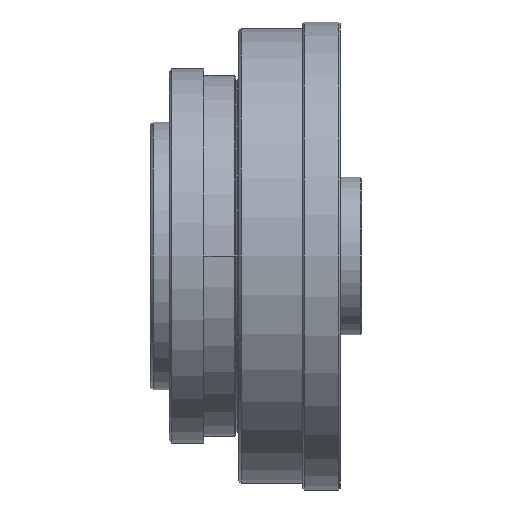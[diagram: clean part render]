
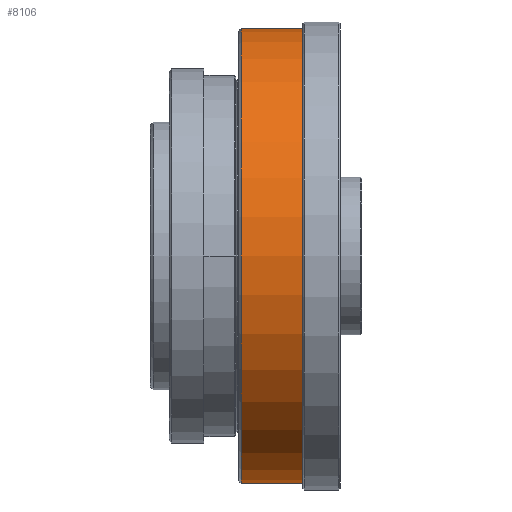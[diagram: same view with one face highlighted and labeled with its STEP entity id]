
A CAD part, left-side view. The second image highlights one B-rep face of the part: STEP entity #8106.
In plain terms, the highlighted cylindrical face has radius 85 mm (diameter 170 mm), a partial arc.
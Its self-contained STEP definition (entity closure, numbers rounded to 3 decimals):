
#1135=CARTESIAN_POINT('',(0.,-42.5,0.));
#1136=DIRECTION('',(0.,-1.,0.));
#1137=DIRECTION('',(0.,0.,1.));
#1138=AXIS2_PLACEMENT_3D('',#1135,#1136,#1137);
#1148=DIRECTION('',(0.,1.,0.));
#1149=VECTOR('',#1148,23.576);
#1150=CARTESIAN_POINT('',(0.,-42.5,-85.));
#1151=LINE('',#1150,#1149);
#1152=DIRECTION('',(0.,-1.,0.));
#1153=VECTOR('',#1152,23.576);
#1154=CARTESIAN_POINT('',(0.,-18.924,85.));
#1155=LINE('',#1154,#1153);
#1156=CARTESIAN_POINT('',(0.,-18.924,0.));
#1157=DIRECTION('',(0.,-1.,0.));
#1158=DIRECTION('',(0.,0.,1.));
#1159=AXIS2_PLACEMENT_3D('',#1156,#1157,#1158);
#4901=CARTESIAN_POINT('',(0.,-18.924,-85.));
#4902=CARTESIAN_POINT('',(0.,-18.924,
85.));
#4903=VERTEX_POINT('',#4901);
#4904=VERTEX_POINT('',#4902);
#5609=CARTESIAN_POINT('',(0.,-42.5,-85.));
#5610=CARTESIAN_POINT('',(0.,-42.5,85.));
#5611=VERTEX_POINT('',#5609);
#5612=VERTEX_POINT('',#5610);
#8094=CARTESIAN_POINT('',(0.,-18.373,0.));
#8095=DIRECTION('',(0.,-1.,0.));
#8096=DIRECTION('',(0.,0.,-1.));
#8097=AXIS2_PLACEMENT_3D('',#8094,#8095,#8096);
#8098=CYLINDRICAL_SURFACE('',#8097,85.);
#8099=ORIENTED_EDGE('',*,*,#8078,.T.);
#8100=ORIENTED_EDGE('',*,*,#8039,.T.);
#8102=ORIENTED_EDGE('',*,*,#8101,.F.);
#8103=ORIENTED_EDGE('',*,*,#8036,.T.);
#8104=EDGE_LOOP('',(#8099,#8100,#8102,#8103));
#8105=FACE_OUTER_BOUND('',#8104,.F.);
#1139=CIRCLE('',#1138,85.);
#1160=CIRCLE('',#1159,85.);
#8036=EDGE_CURVE('',#4904,#5612,#1155,.T.);
#8039=EDGE_CURVE('',#5611,#4903,#1151,.T.);
#8078=EDGE_CURVE('',#5612,#5611,#1139,.T.);
#8101=EDGE_CURVE('',#4904,#4903,#1160,.T.);
#8106=ADVANCED_FACE('',(#8105),#8098,.T.);
